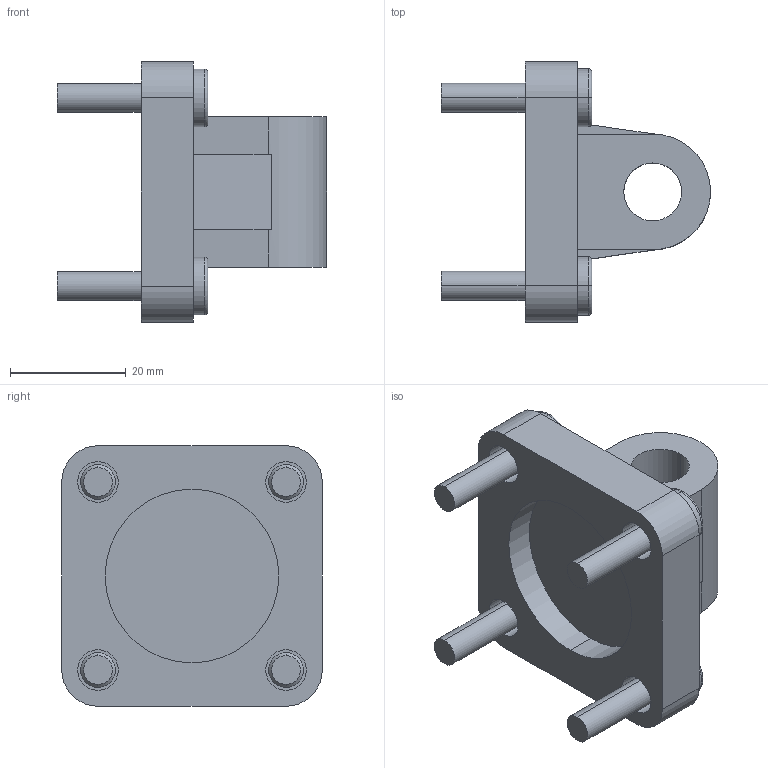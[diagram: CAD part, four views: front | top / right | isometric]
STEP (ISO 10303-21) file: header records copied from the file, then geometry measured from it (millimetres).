
FILE_DESCRIPTION (( 'STEP AP203' ), '1' );
FILE_NAME ('Gegenlager_GL-MP4-3260_536379.step', '2021-07-09T14:18:59', ( '' ), ( '' ), 'SwSTEP 2.0', 'SolidWorks 2020', '' );
FILE_SCHEMA (( 'CONFIG_CONTROL_DESIGN' ));
Length unit declared in the file: millimetre
Products named in the file (1): Gegenlager_GL-MP4-3260_536379
Bounding box: 46.5 x 45 x 45 mm (x, y, z)
Volume: 24543.3 mm3; surface area: 11905.8 mm2
Topology: 5 solids, 5 shells, 129 faces, 291 edges, 186 vertices
Faces by surface type: plane 63, cylinder 50, cone 8, torus 8
Entity records: 3702 total; most frequent: DIRECTION 671, CARTESIAN_POINT 607, ORIENTED_EDGE 582, EDGE_CURVE 291, AXIS2_PLACEMENT_3D 250, VERTEX_POINT 186, LINE 171, VECTOR 171
